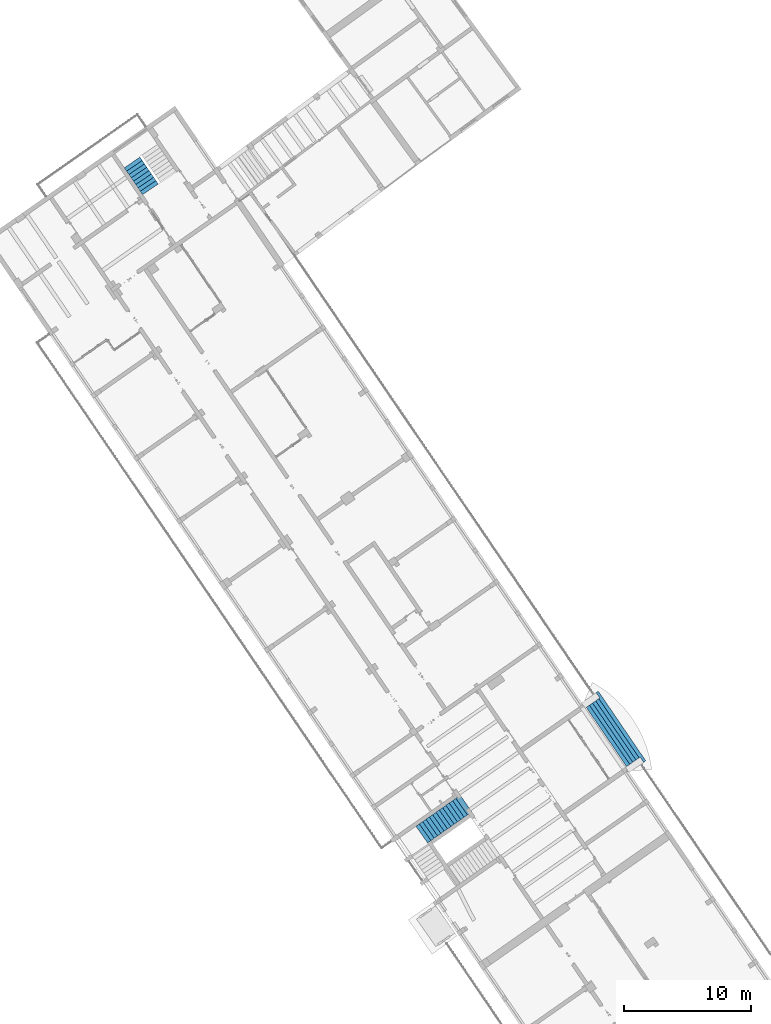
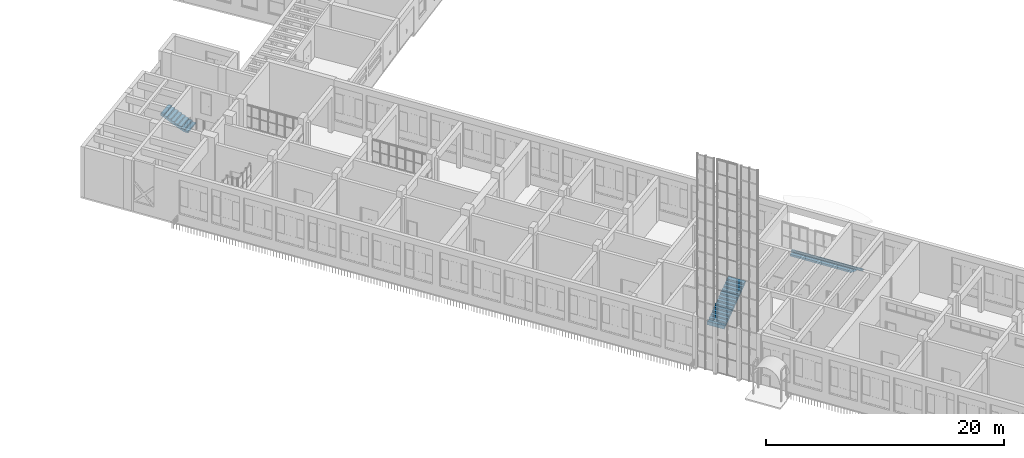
# One storey, part 152 of 157: 3 stair flights, 3 elements without a shape of their own.
"""IFC2X3 building model written with IfcOpenShell, lengths in millimetres."""

from ifc_helpers import new_model, entity, si_unit, converted_unit, derived_unit, direction, frame, origin, place, context, subcontext, project, spatial, faceted_brep, material, material_list, type_object, element, aggregate, save


model = new_model("IFC2X3")

# Units and contexts
model_context = context("Model", 3, precision=0.01, world=origin(), true_north=direction((6.123031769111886e-17, 1.0)))
body_context = subcontext(model_context, "Body", "Model", "MODEL_VIEW")
ifc_project = project(units=[si_unit("LENGTHUNIT", "METRE", prefix="MILLI"), si_unit("AREAUNIT", "SQUARE_METRE"), si_unit("VOLUMEUNIT", "CUBIC_METRE"), converted_unit("PLANEANGLEUNIT", "DEGREE", entity("IfcRatioMeasure", 0.017453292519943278), si_unit("PLANEANGLEUNIT", "RADIAN"), dimensions=[0, 0, 0, 0, 0, 0, 0]), si_unit("MASSUNIT", "GRAM", prefix="KILO"), derived_unit("MASSDENSITYUNIT", [(si_unit("MASSUNIT", "GRAM", prefix="KILO"), 1), (si_unit("LENGTHUNIT", "METRE"), -3)]), derived_unit("MOMENTOFINERTIAUNIT", [(si_unit("LENGTHUNIT", "METRE"), 4)]), si_unit("TIMEUNIT", "SECOND"), si_unit("FREQUENCYUNIT", "HERTZ"), si_unit("THERMODYNAMICTEMPERATUREUNIT", "DEGREE_CELSIUS"), derived_unit("THERMALTRANSMITTANCEUNIT", [(si_unit("MASSUNIT", "GRAM", prefix="KILO"), 1), (si_unit("THERMODYNAMICTEMPERATUREUNIT", "KELVIN"), -1), (si_unit("TIMEUNIT", "SECOND"), -3)]), derived_unit("THERMALCONDUCTANCEUNIT", [(si_unit("MASSUNIT", "GRAM", prefix="KILO"), 1), (si_unit("LENGTHUNIT", "METRE"), 1), (si_unit("THERMODYNAMICTEMPERATUREUNIT", "KELVIN"), -1), (si_unit("TIMEUNIT", "SECOND"), -3)]), derived_unit("VOLUMETRICFLOWRATEUNIT", [(si_unit("LENGTHUNIT", "METRE"), 3), (si_unit("TIMEUNIT", "SECOND"), -1)]), derived_unit("MASSFLOWRATEUNIT", [(si_unit("MASSUNIT", "GRAM", prefix="KILO"), 1), (si_unit("TIMEUNIT", "SECOND"), -1)]), derived_unit("ROTATIONALFREQUENCYUNIT", [(si_unit("TIMEUNIT", "SECOND"), -1)]), si_unit("ELECTRICCURRENTUNIT", "AMPERE"), si_unit("ELECTRICVOLTAGEUNIT", "VOLT"), si_unit("POWERUNIT", "WATT"), converted_unit("FORCEUNIT", "KIP", entity("IfcRatioMeasure", 2.088543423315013e-05), si_unit("FORCEUNIT", "NEWTON"), dimensions=[1, 1, -2, 0, 0, 0, 0]), si_unit("ILLUMINANCEUNIT", "LUX"), si_unit("LUMINOUSFLUXUNIT", "LUMEN"), si_unit("LUMINOUSINTENSITYUNIT", "CANDELA"), derived_unit("USERDEFINED", [(si_unit("MASSUNIT", "GRAM", prefix="KILO"), -1), (si_unit("LENGTHUNIT", "METRE"), -2), (si_unit("TIMEUNIT", "SECOND"), 3), (si_unit("LUMINOUSFLUXUNIT", "LUMEN"), 1)]), derived_unit("USERDEFINED", [(si_unit("MASSUNIT", "GRAM", prefix="KILO"), 1), (si_unit("LENGTHUNIT", "METRE"), 3), (si_unit("TIMEUNIT", "SECOND"), -3), (si_unit("ELECTRICCURRENTUNIT", "AMPERE"), -2)]), derived_unit("USERDEFINED", [(si_unit("LENGTHUNIT", "METRE"), 2), (si_unit("TIMEUNIT", "SECOND"), -2)]), derived_unit("SOUNDPOWERUNIT", [(si_unit("MASSUNIT", "GRAM", prefix="KILO"), 1), (si_unit("LENGTHUNIT", "METRE"), 2), (si_unit("TIMEUNIT", "SECOND"), -3)]), derived_unit("SOUNDPRESSUREUNIT", [(si_unit("MASSUNIT", "GRAM", prefix="KILO"), 1), (si_unit("LENGTHUNIT", "METRE"), -1), (si_unit("TIMEUNIT", "SECOND"), -2)]), derived_unit("LINEARVELOCITYUNIT", [(si_unit("LENGTHUNIT", "METRE"), 1), (si_unit("TIMEUNIT", "SECOND"), -1)]), si_unit("PRESSUREUNIT", "PASCAL"), derived_unit("USERDEFINED", [(si_unit("LENGTHUNIT", "METRE"), -2), (si_unit("MASSUNIT", "GRAM", prefix="KILO"), 1), (si_unit("TIMEUNIT", "SECOND"), -2)]), derived_unit("LINEARFORCEUNIT", [(si_unit("MASSUNIT", "GRAM", prefix="KILO"), 1), (si_unit("LENGTHUNIT", "METRE"), 1), (si_unit("TIMEUNIT", "SECOND"), -2), (si_unit("LENGTHUNIT", "METRE"), -1)]), derived_unit("PLANARFORCEUNIT", [(si_unit("MASSUNIT", "GRAM", prefix="KILO"), 1), (si_unit("LENGTHUNIT", "METRE"), 1), (si_unit("TIMEUNIT", "SECOND"), -2), (si_unit("LENGTHUNIT", "METRE"), -2)]), derived_unit("SPECIFICHEATCAPACITYUNIT", [(si_unit("LENGTHUNIT", "METRE"), 2), (si_unit("TIMEUNIT", "SECOND"), -2), (si_unit("THERMODYNAMICTEMPERATUREUNIT", "KELVIN"), -1)]), derived_unit("VAPORPERMEABILITYUNIT", [(si_unit("TIMEUNIT", "SECOND"), 1), (si_unit("LENGTHUNIT", "METRE"), -1)]), derived_unit("DYNAMICVISCOSITYUNIT", [(si_unit("MASSUNIT", "GRAM", prefix="KILO"), 1), (si_unit("LENGTHUNIT", "METRE"), -1), (si_unit("TIMEUNIT", "SECOND"), -1)]), derived_unit("THERMALEXPANSIONCOEFFICIENTUNIT", [(si_unit("THERMODYNAMICTEMPERATUREUNIT", "KELVIN"), -1)])], contexts=[model_context])

# Site, building, storey
site_placement = place(None, frame((0.0, 0.0, 0.0), z_axis=(0.0, 0.0, 1.0), x_axis=(0.8191520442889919, 0.5735764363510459, 0.0)))
site = spatial("IfcSite", under=ifc_project, at=site_placement, Name="Default", CompositionType="ELEMENT")
building_placement = place(site_placement, origin())
building = spatial("IfcBuilding", under=site, at=building_placement, CompositionType="ELEMENT")
storey_placement = place(building_placement, origin())
storey = spatial("IfcBuildingStorey", under=building, at=storey_placement, Name="1.EG +0.00", CompositionType="ELEMENT", Elevation=-4.331468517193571e-12)

# Stair, stair flight
stair_1_placement = place(storey_placement, origin())
stair_1 = element("IfcStair", 1, at=stair_1_placement, inside=storey, Name="Precast Stair:Stair", ObjectType="Precast Stair:Stair_CJC", ShapeType="STRAIGHT_RUN_STAIR")
ifc_material_1 = material(Name="Concrete, Cast-in-Place gray")
ifc_material_2 = material(Name="Analytical Wall Surface_CJC")
ifc_material_list = material_list([ifc_material_1, ifc_material_2])
stair_flight_type_1 = type_object("IfcStairFlightType", Name="Monolithic Run:1mm_Tread-175mm_Depth", PredefinedType="STRAIGHT")
stair_flight_1_placement = place(stair_1_placement, frame((-210128.91492765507, 168742.70108124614, 0.0)))
stair_flight_1 = element("IfcStairFlight", 2, at=stair_flight_1_placement, type_object=stair_flight_type_1, material=ifc_material_list, Name="Precast Stair:Stair:618218 Run 1", ObjectType="Monolithic Run:1mm_Tread-175mm_Depth", NumberOfRiser=9, NumberOfTreads=8, RiserHeight=0.510352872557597, TreadLength=1.0498687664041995, context=body_context, shape_type="Brep", body=[
    faceted_brep([(4.073468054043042, 339.0684536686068, 155.5555555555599), (0.0, 19.094381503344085, 155.5555555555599), (1499.8784632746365, 0.0, 155.5555555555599), (1503.9519313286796, 319.9740721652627, 155.5555555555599), (4.073468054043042, 339.0684536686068, 154.5555555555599), (1503.9519313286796, 319.9740721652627, 154.5555555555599), (1499.8784632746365, 0.0, 154.5555555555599), (0.0, 19.094381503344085, 154.5555555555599)], [[[0, 1, 2, 3]], [[4, 5, 6, 7]], [[1, 0, 4, 7]], [[2, 1, 7, 6]], [[3, 2, 6, 5]], [[0, 3, 5, 4]]]),
    faceted_brep([(8.146936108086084, 659.0425258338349, 311.11111111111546), (4.073468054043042, 339.0684536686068, 311.11111111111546), (1503.9519313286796, 319.9740721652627, 311.11111111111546), (1508.0253993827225, 639.9481443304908, 311.11111111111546), (8.146936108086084, 659.0425258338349, 310.11111111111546), (1508.0253993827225, 639.9481443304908, 310.11111111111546), (1503.9519313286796, 319.9740721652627, 310.11111111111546), (4.073468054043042, 339.0684536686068, 310.11111111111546)], [[[0, 1, 2, 3]], [[4, 5, 6, 7]], [[1, 0, 4, 7]], [[2, 1, 7, 6]], [[3, 2, 6, 5]], [[0, 3, 5, 4]]]),
    faceted_brep([(12.220404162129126, 979.0165979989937, 466.666666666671), (8.146936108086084, 659.0425258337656, 466.666666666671), (1508.0253993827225, 639.9481443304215, 466.666666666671), (1512.0988674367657, 959.9222164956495, 466.666666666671), (12.220404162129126, 979.0165979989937, 465.66666666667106), (1512.0988674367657, 959.9222164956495, 465.66666666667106), (1508.0253993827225, 639.9481443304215, 465.66666666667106), (8.146936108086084, 659.0425258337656, 465.66666666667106)], [[[0, 1, 2, 3]], [[4, 5, 6, 7]], [[1, 0, 4, 7]], [[2, 1, 7, 6]], [[3, 2, 6, 5]], [[0, 3, 5, 4]]]),
    faceted_brep([(16.29387221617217, 1298.9906701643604, 622.2222222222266), (12.220404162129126, 979.0165979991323, 622.2222222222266), (1512.0988674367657, 959.9222164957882, 622.2222222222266), (1516.1723354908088, 1279.8962886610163, 622.2222222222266), (16.29387221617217, 1298.9906701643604, 621.2222222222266), (1516.1723354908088, 1279.8962886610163, 621.2222222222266), (1512.0988674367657, 959.9222164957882, 621.2222222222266), (12.220404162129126, 979.0165979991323, 621.2222222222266)], [[[0, 1, 2, 3]], [[4, 5, 6, 7]], [[1, 0, 4, 7]], [[2, 1, 7, 6]], [[3, 2, 6, 5]], [[0, 3, 5, 4]]]),
    faceted_brep([(20.36734027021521, 1618.9647423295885, 777.7777777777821), (16.29387221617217, 1298.9906701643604, 777.7777777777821), (1516.1723354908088, 1279.8962886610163, 777.7777777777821), (1520.2458035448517, 1599.8703608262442, 777.7777777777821), (20.36734027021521, 1618.9647423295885, 776.7777777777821), (1520.2458035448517, 1599.8703608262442, 776.7777777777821), (1516.1723354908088, 1279.8962886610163, 776.7777777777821), (16.29387221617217, 1298.9906701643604, 776.7777777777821)], [[[0, 1, 2, 3]], [[4, 5, 6, 7]], [[1, 0, 4, 7]], [[2, 1, 7, 6]], [[3, 2, 6, 5]], [[0, 3, 5, 4]]]),
    faceted_brep([(24.440808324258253, 1938.9388144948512, 933.3333333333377), (20.36734027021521, 1618.964742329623, 933.3333333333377), (1520.2458035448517, 1599.870360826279, 933.3333333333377), (1524.3192715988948, 1919.8444329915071, 933.3333333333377), (24.440808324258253, 1938.9388144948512, 932.3333333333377), (1524.3192715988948, 1919.8444329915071, 932.3333333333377), (1520.2458035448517, 1599.870360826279, 932.3333333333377), (20.36734027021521, 1618.964742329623, 932.3333333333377)], [[[0, 1, 2, 3]], [[4, 5, 6, 7]], [[1, 0, 4, 7]], [[2, 1, 7, 6]], [[3, 2, 6, 5]], [[0, 3, 5, 4]]]),
    faceted_brep([(28.51427637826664, 2258.912886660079, 1088.8888888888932), (24.4408083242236, 1938.9388144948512, 1088.8888888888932), (1524.31927159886, 1919.8444329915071, 1088.8888888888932), (1528.3927396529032, 2239.8185051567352, 1088.8888888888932), (28.51427637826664, 2258.912886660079, 1087.8888888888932), (1528.3927396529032, 2239.8185051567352, 1087.8888888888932), (1524.31927159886, 1919.8444329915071, 1087.8888888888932), (24.4408083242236, 1938.9388144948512, 1087.8888888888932)], [[[0, 1, 2, 3]], [[4, 5, 6, 7]], [[1, 0, 4, 7]], [[2, 1, 7, 6]], [[3, 2, 6, 5]], [[0, 3, 5, 4]]]),
    faceted_brep([(32.58774443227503, 2578.886958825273, 1244.444444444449), (28.51427637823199, 2258.9128866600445, 1244.444444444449), (1528.3927396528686, 2239.8185051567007, 1244.444444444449), (1532.4662077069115, 2559.7925773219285, 1244.444444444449), (32.58774443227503, 2578.886958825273, 1243.444444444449), (1532.4662077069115, 2559.7925773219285, 1243.444444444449), (1528.3927396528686, 2239.8185051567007, 1243.444444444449), (28.51427637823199, 2258.9128866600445, 1243.444444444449)], [[[0, 1, 2, 3]], [[4, 5, 6, 7]], [[1, 0, 4, 7]], [[2, 1, 7, 6]], [[3, 2, 6, 5]], [[0, 3, 5, 4]]]),
    faceted_brep([(4.073468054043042, 339.0684536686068, 154.55555555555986), (0.0, 19.094381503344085, 154.55555555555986), (1499.8784632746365, 0.0, 154.55555555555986), (1503.9519313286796, 319.9740721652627, 154.55555555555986), (4.073468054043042, 339.0684536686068, 0.0), (0.0, 19.094381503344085, 0.0), (1499.8784632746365, 0.0, 0.0), (1503.9519313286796, 319.9740721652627, 0.0), (8.146936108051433, 659.0425258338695, 310.1111111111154), (4.07346805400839, 339.0684536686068, 310.1111111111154), (1503.9519313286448, 319.9740721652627, 310.1111111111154), (1508.025399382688, 639.9481443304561, 310.1111111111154), (8.146936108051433, 659.0425258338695, 115.5299959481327), (5.121600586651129, 421.40007630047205, 0.0), (1505.000063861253, 402.30569479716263, 0.0), (1508.025399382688, 639.9481443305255, 115.52999594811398), (12.220404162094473, 979.0165979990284, 465.666666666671), (8.146936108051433, 659.0425258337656, 465.666666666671), (1508.025399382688, 639.9481443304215, 465.666666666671), (1512.0988674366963, 959.9222164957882, 465.666666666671), (12.220404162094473, 979.0165979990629, 271.08555150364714), (1512.098867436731, 959.9222164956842, 271.0855515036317), (16.293872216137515, 1298.990670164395, 621.2222222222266), (12.220404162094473, 979.0165979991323, 621.2222222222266), (1512.098867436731, 959.9222164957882, 621.2222222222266), (1516.172335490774, 1279.896288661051, 621.2222222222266), (16.293872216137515, 1298.990670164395, 426.6411070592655), (1516.172335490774, 1279.896288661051, 426.64110705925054), (20.36734027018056, 1618.964742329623, 776.7777777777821), (16.293872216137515, 1298.9906701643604, 776.7777777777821), (1516.172335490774, 1279.8962886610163, 776.7777777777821), (1520.2458035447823, 1599.8703608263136, 776.7777777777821), (20.36734027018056, 1618.964742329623, 582.1966626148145), (1520.2458035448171, 1599.870360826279, 582.196662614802), (24.4408083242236, 1938.9388144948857, 932.3333333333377), (20.36734027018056, 1618.964742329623, 932.3333333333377), (1520.2458035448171, 1599.870360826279, 932.3333333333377), (1524.31927159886, 1919.8444329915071, 932.3333333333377), (24.4408083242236, 1938.9388144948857, 737.752218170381), (1524.31927159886, 1919.8444329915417, 737.7522181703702), (28.51427637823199, 2258.912886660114, 1087.8888888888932), (24.440808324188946, 1938.9388144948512, 1087.8888888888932), (1524.3192715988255, 1919.8444329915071, 1087.8888888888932), (1528.3927396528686, 2239.8185051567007, 1087.8888888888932), (28.51427637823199, 2258.9128866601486, 893.3077737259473), (1528.3927396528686, 2239.81850515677, 893.3077737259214), (32.58774443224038, 2578.8869588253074, 1243.444444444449), (28.514276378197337, 2258.9128866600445, 1243.444444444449), (1528.3927396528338, 2239.8185051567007, 1243.444444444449), (1532.466207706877, 2559.792577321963, 1243.444444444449), (32.58774443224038, 2578.886958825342, 1048.863329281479), (1532.466207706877, 2559.792577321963, 1048.863329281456)], [[[0, 1, 2, 3]], [[1, 0, 4, 5]], [[2, 1, 5, 6]], [[3, 2, 6, 7]], [[8, 9, 10, 11]], [[4, 0, 9, 8, 12, 13]], [[0, 3, 10, 9]], [[3, 7, 14, 15, 11, 10]], [[16, 17, 18, 19]], [[17, 16, 20, 12, 8]], [[8, 11, 18, 17]], [[19, 18, 11, 15, 21]], [[22, 23, 24, 25]], [[23, 22, 26, 20, 16]], [[16, 19, 24, 23]], [[25, 24, 19, 21, 27]], [[28, 29, 30, 31]], [[29, 28, 32, 26, 22]], [[22, 25, 30, 29]], [[31, 30, 25, 27, 33]], [[34, 35, 36, 37]], [[35, 34, 38, 32, 28]], [[28, 31, 36, 35]], [[37, 36, 31, 33, 39]], [[40, 41, 42, 43]], [[41, 40, 44, 38, 34]], [[34, 37, 42, 41]], [[43, 42, 37, 39, 45]], [[46, 47, 48, 49]], [[47, 46, 50, 44, 40]], [[40, 43, 48, 47]], [[49, 48, 43, 45, 51]], [[46, 49, 51, 50]], [[5, 4, 13, 14, 7, 6]], [[14, 13, 12, 20, 26, 32, 38, 44, 50, 51, 45, 39, 33, 27, 21, 15]]]),
])
aggregate(stair_1, [stair_flight_1])

stair_2_placement = place(storey_placement, origin())
stair_2 = element("IfcStair", 3, at=stair_2_placement, inside=storey, Name="Precast Stair:Stair", ObjectType="Precast Stair:Stair_CJC", ShapeType="NOTDEFINED")
stair_flight_2_placement = place(stair_2_placement, frame((-221045.3986167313, 113946.35891435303, 0.0)))
stair_flight_2 = element("IfcStairFlight", 4, at=stair_flight_2_placement, type_object=stair_flight_type_1, material=ifc_material_list, Name="Precast Stair:Stair:619710 Run 3", ObjectType="Monolithic Run:1mm_Tread-175mm_Depth", NumberOfRiser=13, NumberOfTreads=13, RiserHeight=0.5269227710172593, TreadLength=1.0498687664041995, context=body_context, shape_type="Brep", body=[
    faceted_brep([(320.0, 1600.0, 3372.7272727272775), (0.0, 1600.0, 3372.7272727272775), (0.0, 0.0, 3372.7272727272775), (320.0, 0.0, 3372.7272727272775), (320.0, 1600.0, 3371.727272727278), (320.0, 0.0, 3371.727272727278), (0.0, 0.0, 3371.727272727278), (0.0, 1600.0, 3371.727272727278)], [[[0, 1, 2, 3]], [[4, 5, 6, 7]], [[1, 0, 4, 7]], [[2, 1, 7, 6]], [[3, 2, 6, 5]], [[0, 3, 5, 4]]]),
    faceted_brep([(640.0, 1600.0, 3533.333333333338), (320.0, 1600.0, 3533.333333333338), (320.0, 0.0, 3533.333333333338), (640.0, 0.0, 3533.333333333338), (640.0, 1600.0, 3532.333333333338), (640.0, 0.0, 3532.333333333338), (320.0, 0.0, 3532.333333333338), (320.0, 1600.0, 3532.333333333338)], [[[0, 1, 2, 3]], [[4, 5, 6, 7]], [[1, 0, 4, 7]], [[2, 1, 7, 6]], [[3, 2, 6, 5]], [[0, 3, 5, 4]]]),
    faceted_brep([(960.0, 1600.0, 3693.9393939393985), (640.0, 1600.0, 3693.9393939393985), (640.0, 0.0, 3693.9393939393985), (960.0, 0.0, 3693.9393939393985), (960.0, 1600.0, 3692.939393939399), (960.0, 0.0, 3692.939393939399), (640.0, 0.0, 3692.939393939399), (640.0, 1600.0, 3692.939393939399)], [[[0, 1, 2, 3]], [[4, 5, 6, 7]], [[1, 0, 4, 7]], [[2, 1, 7, 6]], [[3, 2, 6, 5]], [[0, 3, 5, 4]]]),
    faceted_brep([(1280.0, 1600.0, 3854.5454545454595), (960.0, 1600.0, 3854.5454545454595), (960.0, 0.0, 3854.5454545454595), (1280.0, 0.0, 3854.5454545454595), (1280.0, 1600.0, 3853.5454545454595), (1280.0, 0.0, 3853.5454545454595), (960.0, 0.0, 3853.5454545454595), (960.0, 1600.0, 3853.5454545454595)], [[[0, 1, 2, 3]], [[4, 5, 6, 7]], [[1, 0, 4, 7]], [[2, 1, 7, 6]], [[3, 2, 6, 5]], [[0, 3, 5, 4]]]),
    faceted_brep([(1600.0, 1600.0, 4015.15151515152), (1280.0, 1600.0, 4015.15151515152), (1280.0, 0.0, 4015.15151515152), (1600.0, 0.0, 4015.15151515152), (1600.0, 1600.0, 4014.1515151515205), (1600.0, 0.0, 4014.1515151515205), (1280.0, 0.0, 4014.1515151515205), (1280.0, 1600.0, 4014.1515151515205)], [[[0, 1, 2, 3]], [[4, 5, 6, 7]], [[1, 0, 4, 7]], [[2, 1, 7, 6]], [[3, 2, 6, 5]], [[0, 3, 5, 4]]]),
    faceted_brep([(1920.0, 1600.0, 4175.7575757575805), (1600.0, 1600.0, 4175.7575757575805), (1600.0, 0.0, 4175.7575757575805), (1920.0, 0.0, 4175.7575757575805), (1920.0, 1600.0, 4174.757575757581), (1920.0, 0.0, 4174.757575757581), (1600.0, 0.0, 4174.757575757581), (1600.0, 1600.0, 4174.757575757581)], [[[0, 1, 2, 3]], [[4, 5, 6, 7]], [[1, 0, 4, 7]], [[2, 1, 7, 6]], [[3, 2, 6, 5]], [[0, 3, 5, 4]]]),
    faceted_brep([(2240.0, 1600.0, 4336.3636363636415), (1920.0, 1600.0, 4336.3636363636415), (1920.0, 0.0, 4336.3636363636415), (2240.0, 0.0, 4336.3636363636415), (2240.0, 1600.0, 4335.3636363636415), (2240.0, 0.0, 4335.3636363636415), (1920.0, 0.0, 4335.3636363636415), (1920.0, 1600.0, 4335.3636363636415)], [[[0, 1, 2, 3]], [[4, 5, 6, 7]], [[1, 0, 4, 7]], [[2, 1, 7, 6]], [[3, 2, 6, 5]], [[0, 3, 5, 4]]]),
    faceted_brep([(2560.0, 1600.0, 4496.9696969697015), (2240.0, 1600.0, 4496.9696969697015), (2240.0, 0.0, 4496.9696969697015), (2560.0, 0.0, 4496.9696969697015), (2560.0, 1600.0, 4495.969696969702), (2560.0, 0.0, 4495.969696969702), (2240.0, 0.0, 4495.969696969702), (2240.0, 1600.0, 4495.969696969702)], [[[0, 1, 2, 3]], [[4, 5, 6, 7]], [[1, 0, 4, 7]], [[2, 1, 7, 6]], [[3, 2, 6, 5]], [[0, 3, 5, 4]]]),
    faceted_brep([(2880.0, 1600.0, 4657.5757575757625), (2560.0, 1600.0, 4657.5757575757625), (2560.0, 0.0, 4657.5757575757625), (2880.0, 0.0, 4657.5757575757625), (2880.0, 1600.0, 4656.5757575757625), (2880.0, 0.0, 4656.5757575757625), (2560.0, 0.0, 4656.5757575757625), (2560.0, 1600.0, 4656.5757575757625)], [[[0, 1, 2, 3]], [[4, 5, 6, 7]], [[1, 0, 4, 7]], [[2, 1, 7, 6]], [[3, 2, 6, 5]], [[0, 3, 5, 4]]]),
    faceted_brep([(3200.0, 1600.0, 4818.181818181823), (2880.0, 1600.0, 4818.181818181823), (2880.0, 0.0, 4818.181818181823), (3200.0, 0.0, 4818.181818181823), (3200.0, 1600.0, 4817.1818181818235), (3200.0, 0.0, 4817.1818181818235), (2880.0, 0.0, 4817.1818181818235), (2880.0, 1600.0, 4817.1818181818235)], [[[0, 1, 2, 3]], [[4, 5, 6, 7]], [[1, 0, 4, 7]], [[2, 1, 7, 6]], [[3, 2, 6, 5]], [[0, 3, 5, 4]]]),
    faceted_brep([(3520.0, 1600.0, 4978.7878787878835), (3200.0, 1600.0, 4978.7878787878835), (3200.0, 0.0, 4978.7878787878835), (3520.0, 0.0, 4978.7878787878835), (3520.0, 1600.0, 4977.7878787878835), (3520.0, 0.0, 4977.7878787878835), (3200.0, 0.0, 4977.7878787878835), (3200.0, 1600.0, 4977.7878787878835)], [[[0, 1, 2, 3]], [[4, 5, 6, 7]], [[1, 0, 4, 7]], [[2, 1, 7, 6]], [[3, 2, 6, 5]], [[0, 3, 5, 4]]]),
    faceted_brep([(3840.0, 1600.0, 5139.3939393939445), (3520.0, 1600.0, 5139.3939393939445), (3520.0, 0.0, 5139.3939393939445), (3840.0, 0.0, 5139.3939393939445), (3840.0, 1600.0, 5138.3939393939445), (3840.0, 0.0, 5138.3939393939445), (3520.0, 0.0, 5138.3939393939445), (3520.0, 1600.0, 5138.3939393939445)], [[[0, 1, 2, 3]], [[4, 5, 6, 7]], [[1, 0, 4, 7]], [[2, 1, 7, 6]], [[3, 2, 6, 5]], [[0, 3, 5, 4]]]),
    faceted_brep([(4260.0, 1600.0, 5300.0), (3840.0, 1600.0, 5300.0), (3840.0, 0.0, 5300.0), (4260.0, 0.0, 5300.0), (4260.0, 1600.0, 5299.0), (4260.0, 0.0, 5299.0), (3840.0, 0.0, 5299.0), (3840.0, 1600.0, 5299.0)], [[[0, 1, 2, 3]], [[4, 5, 6, 7]], [[1, 0, 4, 7]], [[2, 1, 7, 6]], [[3, 2, 6, 5]], [[0, 3, 5, 4]]]),
    faceted_brep([(320.0, 1600.0, 3371.727272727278), (0.0, 1600.0, 3371.727272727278), (0.0, 0.0, 3371.727272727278), (320.0, 0.0, 3371.727272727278), (320.0, 1600.0, 3175.9228760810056), (0.0, 1600.0, 3015.3168154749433), (0.0, 0.0, 3015.3168154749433), (320.0, 0.0, 3175.9228760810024), (640.0, 1600.0, 3532.333333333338), (320.0, 1600.0, 3532.333333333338), (320.0, 0.0, 3532.333333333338), (640.0, 0.0, 3532.333333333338), (640.0, 1600.0, 3336.5289366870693), (640.0, 0.0, 3336.528936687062), (960.0, 1600.0, 3692.939393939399), (640.0, 1600.0, 3692.939393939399), (640.0, 0.0, 3692.939393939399), (960.0, 0.0, 3692.939393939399), (960.0, 1600.0, 3497.1349972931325), (960.0, 0.0, 3497.134997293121), (1280.0, 1600.0, 3853.5454545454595), (960.0, 1600.0, 3853.5454545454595), (960.0, 0.0, 3853.5454545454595), (1280.0, 0.0, 3853.5454545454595), (1280.0, 1600.0, 3657.741057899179), (1280.0, 0.0, 3657.7410578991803), (1600.0, 1600.0, 4014.1515151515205), (1280.0, 1600.0, 4014.1515151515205), (1280.0, 0.0, 4014.1515151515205), (1600.0, 0.0, 4014.1515151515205), (1600.0, 1600.0, 3818.3471185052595), (1600.0, 0.0, 3818.347118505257), (1920.0, 1600.0, 4174.757575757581), (1600.0, 1600.0, 4174.757575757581), (1600.0, 0.0, 4174.757575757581), (1920.0, 0.0, 4174.757575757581), (1920.0, 1600.0, 3978.953179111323), (1920.0, 0.0, 3978.9531791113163), (2240.0, 1600.0, 4335.3636363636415), (1920.0, 1600.0, 4335.3636363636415), (1920.0, 0.0, 4335.3636363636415), (2240.0, 0.0, 4335.3636363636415), (2240.0, 1600.0, 4139.55923971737), (2240.0, 0.0, 4139.559239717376), (2560.0, 1600.0, 4495.969696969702), (2240.0, 1600.0, 4495.969696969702), (2240.0, 0.0, 4495.969696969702), (2560.0, 0.0, 4495.969696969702), (2560.0, 1600.0, 4300.165300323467), (2560.0, 0.0, 4300.165300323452), (2880.0, 1600.0, 4656.5757575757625), (2560.0, 1600.0, 4656.5757575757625), (2560.0, 0.0, 4656.5757575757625), (2880.0, 0.0, 4656.5757575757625), (2880.0, 1600.0, 4460.771360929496), (2880.0, 0.0, 4460.771360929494), (3200.0, 1600.0, 4817.1818181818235), (2880.0, 1600.0, 4817.1818181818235), (2880.0, 0.0, 4817.1818181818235), (3200.0, 0.0, 4817.1818181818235), (3200.0, 1600.0, 4621.37742153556), (3200.0, 0.0, 4621.377421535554), (3520.0, 1600.0, 4977.7878787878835), (3200.0, 1600.0, 4977.7878787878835), (3200.0, 0.0, 4977.7878787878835), (3520.0, 0.0, 4977.7878787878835), (3520.0, 1600.0, 4781.983482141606), (3520.0, 0.0, 4781.983482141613), (3840.0, 1600.0, 5138.3939393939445), (3520.0, 1600.0, 5138.3939393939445), (3520.0, 0.0, 5138.3939393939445), (3840.0, 0.0, 5138.3939393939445), (3840.0, 1600.0, 4942.589542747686), (3840.0, 0.0, 4942.589542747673), (3840.0, 1600.0, 5299.0), (3840.0, 0.0, 5299.0), (4260.0, 0.0, 5299.0), (4260.0, 1600.0, 5299.0), (4260.0, 1600.0, 5199.0), (4160.0, 1600.0, 5199.0), (4160.0, 1600.0, 5103.195603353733), (4160.0, 0.0, 5103.195603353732), (4160.0, 0.0, 5199.0), (4260.0, 0.0, 5199.0)], [[[0, 1, 2, 3]], [[1, 0, 4, 5]], [[2, 1, 5, 6]], [[3, 2, 6, 7]], [[8, 9, 10, 11]], [[9, 8, 12, 4, 0]], [[10, 9, 0, 3]], [[11, 10, 3, 7, 13]], [[14, 15, 16, 17]], [[15, 14, 18, 12, 8]], [[16, 15, 8, 11]], [[17, 16, 11, 13, 19]], [[20, 21, 22, 23]], [[21, 20, 24, 18, 14]], [[22, 21, 14, 17]], [[23, 22, 17, 19, 25]], [[26, 27, 28, 29]], [[27, 26, 30, 24, 20]], [[28, 27, 20, 23]], [[29, 28, 23, 25, 31]], [[32, 33, 34, 35]], [[33, 32, 36, 30, 26]], [[34, 33, 26, 29]], [[35, 34, 29, 31, 37]], [[38, 39, 40, 41]], [[39, 38, 42, 36, 32]], [[40, 39, 32, 35]], [[41, 40, 35, 37, 43]], [[44, 45, 46, 47]], [[45, 44, 48, 42, 38]], [[46, 45, 38, 41]], [[47, 46, 41, 43, 49]], [[50, 51, 52, 53]], [[51, 50, 54, 48, 44]], [[52, 51, 44, 47]], [[53, 52, 47, 49, 55]], [[56, 57, 58, 59]], [[57, 56, 60, 54, 50]], [[58, 57, 50, 53]], [[59, 58, 53, 55, 61]], [[62, 63, 64, 65]], [[63, 62, 66, 60, 56]], [[64, 63, 56, 59]], [[65, 64, 59, 61, 67]], [[68, 69, 70, 71]], [[69, 68, 72, 66, 62]], [[70, 69, 62, 65]], [[71, 70, 65, 67, 73]], [[74, 75, 76, 77]], [[74, 77, 78, 79, 80, 72, 68]], [[75, 74, 68, 71]], [[76, 75, 71, 73, 81, 82, 83]], [[81, 80, 79, 82]], [[83, 82, 79, 78]], [[83, 78, 77, 76]], [[5, 4, 12, 18, 24, 30, 36, 42, 48, 54, 60, 66, 72, 80, 81, 73, 67, 61, 55, 49, 43, 37, 31, 25, 19, 13, 7, 6]]]),
])
aggregate(stair_2, [stair_flight_2])

stair_3_placement = place(storey_placement, origin())
stair_3 = element("IfcStair", 5, at=stair_3_placement, inside=storey, Name="Precast Stair:Stair", ObjectType="Precast Stair:Stair_CJC", ShapeType="STRAIGHT_RUN_STAIR")
stair_flight_type_2 = type_object("IfcStairFlightType", Name="Monolithic Run:1mm_Tread-175mm_Depth", PredefinedType="NOTDEFINED")
stair_flight_3_placement = place(stair_3_placement, frame((-204722.86571416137, 109371.35891435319, 0.0)))
stair_flight_3 = element("IfcStairFlight", 6, at=stair_flight_3_placement, type_object=stair_flight_type_2, material=ifc_material_list, Name="Precast Stair:Stair:624066 Run 1", ObjectType="Monolithic Run:1mm_Tread-175mm_Depth", NumberOfRiser=6, NumberOfTreads=5, RiserHeight=0.4647856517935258, TreadLength=1.0498687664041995, context=body_context, shape_type="Brep", body=[
    faceted_brep([(1202.0139236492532, 499.99831987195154, -708.333333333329), (1302.0220481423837, 500.0, -708.333333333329), (1302.0220481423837, 0.0, -708.333333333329), (1495.6729447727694, 0.0, -708.333333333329), (1580.3315621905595, 6650.0, -708.333333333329), (1373.950046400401, 6650.0, -708.333333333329), (1373.950046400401, 6150.0, -708.333333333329), (1273.941942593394, 6149.999944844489, -708.333333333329), (1202.0139236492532, 499.9983198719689, -709.333333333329), (1273.941942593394, 6149.999944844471, -709.333333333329), (1373.950046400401, 6150.0, -709.333333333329), (1373.950046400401, 6650.0, -709.333333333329), (1580.3315621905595, 6650.0, -709.333333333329), (1495.6729447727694, 0.0, -709.333333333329), (1302.0220481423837, 0.0, -709.333333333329), (1302.0220481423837, 500.0, -709.333333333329)], [[[0, 1, 2, 3, 4, 5, 6, 7]], [[8, 9, 10, 11, 12, 13, 14, 15]], [[1, 0, 8, 15]], [[2, 1, 15, 14]], [[3, 2, 14, 13]], [[4, 3, 13, 12]], [[5, 4, 12, 11]], [[6, 5, 11, 10]], [[7, 6, 10, 9]], [[0, 7, 9, 8]]]),
    faceted_brep([(901.9895501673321, 499.9932794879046, -566.6666666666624), (1202.0139236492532, 499.9983198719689, -566.6666666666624), (1273.941942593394, 6149.999944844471, -566.6666666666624), (973.9176311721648, 6149.999779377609, -566.6666666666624), (901.9895501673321, 499.99327948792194, -567.6666666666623), (973.9176311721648, 6149.999779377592, -567.6666666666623), (1273.941942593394, 6149.999944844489, -567.6666666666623), (1202.0139236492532, 499.99831987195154, -567.6666666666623)], [[[0, 1, 2, 3]], [[4, 5, 6, 7]], [[1, 0, 4, 7]], [[2, 1, 7, 6]], [[3, 2, 6, 5]], [[0, 3, 5, 4]]]),
    faceted_brep([(601.9651766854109, 499.988239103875, -425.0), (901.9895501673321, 499.99327948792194, -425.0), (973.9176311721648, 6149.999779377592, -425.0), (673.89331975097, 6149.999613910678, -425.0), (601.9651766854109, 499.9882391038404, -426.0), (673.89331975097, 6149.9996139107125, -426.0), (973.9176311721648, 6149.999779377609, -426.0), (901.9895501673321, 499.9932794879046, -426.0)], [[[0, 1, 2, 3]], [[4, 5, 6, 7]], [[1, 0, 4, 7]], [[2, 1, 7, 6]], [[3, 2, 6, 5]], [[0, 3, 5, 4]]]),
    faceted_brep([(301.94080320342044, 499.9831987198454, -283.333333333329), (601.9651766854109, 499.9882391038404, -283.333333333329), (673.89331975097, 6149.9996139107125, -283.333333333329), (373.86900832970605, 6149.99944844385, -283.333333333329), (301.94080320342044, 499.9831987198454, -284.33333333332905), (373.86900832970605, 6149.999448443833, -284.33333333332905), (673.89331975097, 6149.999613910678, -284.33333333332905), (601.9651766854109, 499.988239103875, -284.33333333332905)], [[[0, 1, 2, 3]], [[4, 5, 6, 7]], [[1, 0, 4, 7]], [[2, 1, 7, 6]], [[3, 2, 6, 5]], [[0, 3, 5, 4]]]),
    faceted_brep([(0.0, 499.97812613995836, -141.66666666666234), (301.94080320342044, 499.9831987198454, -141.66666666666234), (373.86900832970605, 6149.999448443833, -141.66666666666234), (73.8366029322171, 6149.9992829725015, -141.66666666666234), (0.0, 499.978126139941, -142.66666666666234), (73.8366029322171, 6149.9992829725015, -142.66666666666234), (373.86900832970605, 6149.99944844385, -142.66666666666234), (301.94080320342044, 499.9831987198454, -142.66666666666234)], [[[0, 1, 2, 3]], [[4, 5, 6, 7]], [[1, 0, 4, 7]], [[2, 1, 7, 6]], [[3, 2, 6, 5]], [[0, 3, 5, 4]]]),
    faceted_brep([(1202.0139236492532, 499.99831987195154, -709.333333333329), (1302.0220481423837, 500.0, -709.333333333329), (1302.0220481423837, 0.0, -709.333333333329), (1495.6729447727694, 0.0, -709.333333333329), (1580.3315621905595, 6650.0, -709.333333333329), (1373.950046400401, 6650.0, -709.333333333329), (1373.950046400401, 6150.0, -709.333333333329), (1273.941942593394, 6149.999944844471, -709.333333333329), (1202.0139236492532, 499.99831987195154, -850.0), (1302.0220481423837, 500.0, -850.0), (1302.0220481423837, 0.0, -850.0), (1495.6729447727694, 0.0, -850.0), (1580.3315621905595, 6650.0, -850.0), (1373.950046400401, 6650.0, -850.0), (1373.950046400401, 6150.0, -850.0), (1273.941942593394, 6149.999944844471, -850.0), (901.9895501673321, 499.9932794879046, -567.6666666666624), (1202.0139236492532, 499.9983198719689, -567.6666666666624), (1273.941942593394, 6149.999944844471, -567.6666666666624), (973.9176311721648, 6149.999779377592, -567.6666666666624), (901.9895501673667, 499.9932794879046, -761.197506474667), (1090.0571676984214, 499.9964390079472, -850.0), (1161.985209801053, 6149.999883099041, -850.0), (973.9176311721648, 6149.999779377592, -761.1975064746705), (601.9651766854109, 499.988239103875, -426.0), (901.9895501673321, 499.99327948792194, -426.0), (973.9176311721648, 6149.999779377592, -426.0), (673.89331975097, 6149.99961391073, -426.0), (601.9651766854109, 499.988239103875, -619.530839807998), (673.89331975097, 6149.9996139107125, -619.5308398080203), (301.94080320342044, 499.9831987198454, -284.33333333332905), (601.9651766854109, 499.9882391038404, -284.33333333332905), (673.89331975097, 6149.9996139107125, -284.33333333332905), (373.86900832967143, 6149.99944844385, -284.33333333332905), (301.9408032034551, 499.9831987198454, -477.86417314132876), (373.86900832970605, 6149.999448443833, -477.8641731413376), (0.0, 499.97812613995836, -142.6666666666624), (301.94080320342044, 499.9831987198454, -142.6666666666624), (373.86900832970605, 6149.999448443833, -142.6666666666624), (73.8366029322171, 6149.9992829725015, -142.6666666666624), (0.0, 499.97812613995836, -335.29259929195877), (73.8366029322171, 6149.9992829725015, -336.19368462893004)], [[[0, 1, 2, 3, 4, 5, 6, 7]], [[1, 0, 8, 9]], [[2, 1, 9, 10]], [[3, 2, 10, 11]], [[4, 3, 11, 12]], [[5, 4, 12, 13]], [[6, 5, 13, 14]], [[7, 6, 14, 15]], [[16, 17, 18, 19]], [[8, 0, 17, 16, 20, 21]], [[0, 7, 18, 17]], [[7, 15, 22, 23, 19, 18]], [[24, 25, 26, 27]], [[25, 24, 28, 20, 16]], [[16, 19, 26, 25]], [[27, 26, 19, 23, 29]], [[30, 31, 32, 33]], [[31, 30, 34, 28, 24]], [[24, 27, 32, 31]], [[33, 32, 27, 29, 35]], [[36, 37, 38, 39]], [[37, 36, 40, 34, 30]], [[30, 33, 38, 37]], [[39, 38, 33, 35, 41]], [[36, 39, 41, 40]], [[9, 8, 21, 22, 15, 14, 13, 12, 11, 10]], [[22, 21, 20, 28, 34, 40, 41, 35, 29, 23]]]),
])
aggregate(stair_3, [stair_flight_3])

save(model, "model.ifc")
